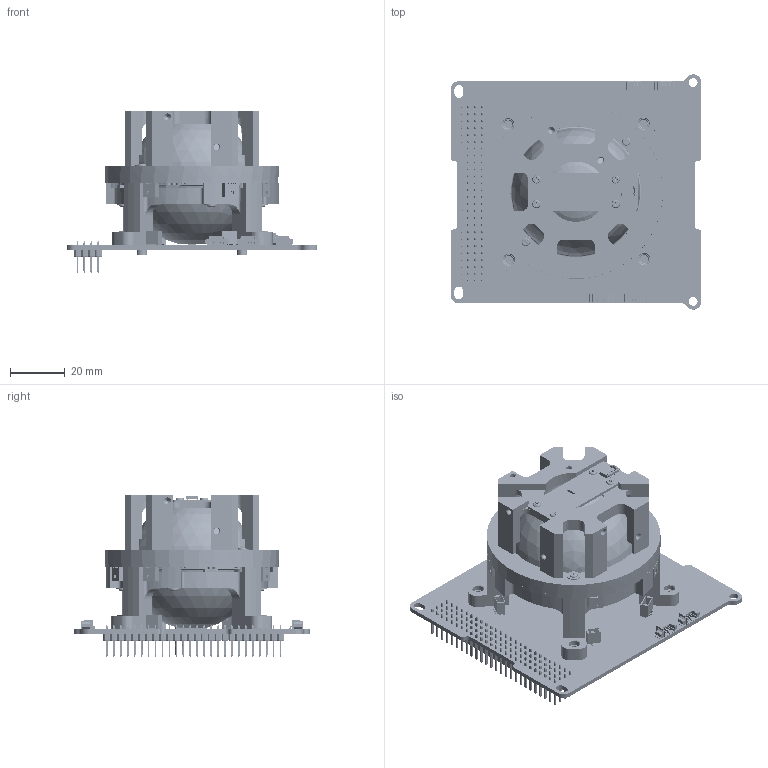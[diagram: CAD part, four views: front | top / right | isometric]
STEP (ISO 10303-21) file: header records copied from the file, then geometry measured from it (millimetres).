
FILE_DESCRIPTION(/* description */ (''),/* implementation_level */ '2;1');
FILE_NAME(/* name */ 'G:\Shared drives\業務部\銷售\給客戶的資料\CAD Models\Full Assembly of CMG-10m V9.6 for Customers.stp',/* time_stamp */ '2023-03-01T14:41:12+08:00',/* author */ ('thoma'),/* organization */ (''),/* preprocessor_version */ 'ST-DEVELOPER v19',/* originating_system */ 'Autodesk Inventor 2023',/* authorisation */ '');
FILE_SCHEMA (('AUTOMOTIVE_DESIGN { 1 0 10303 214 3 1 1 }'));
Products named in the file (1): Full Assembly of CMG-10m V9.6 for Customers
Bounding box: 91.72 x 86.01 x 58.94 mm (x, y, z)
Volume: 58768.9 mm3; surface area: 85232.3 mm2
Topology: 97 solids, 97 shells, 14836 faces, 36852 edges, 22013 vertices
Faces by surface type: plane 8043, cylinder 4400, sphere 1685, bspline 273, cone 257, torus 178
Full cylindrical faces by diameter (mm): 0.75 x12, 0.914 x104, 1.5 x46, 1.6 x18, 2 x38, 2.1 x10, 2.2 x6, 3 x4, 3.2 x2, 3.8 x4, 4 x4, 5 x7, 6 x1, 7 x2, 9 x2, 10 x4, 12 x2, 13 x2, 15 x2, 16 x6, 18 x2, 19 x2, 22 x1, 48 x1, 63.6 x1
Entity records: 469915 total; most frequent: CARTESIAN_POINT 104338, DIRECTION 75021, ORIENTED_EDGE 73582, EDGE_CURVE 36791, LINE 25833, VECTOR 25833, AXIS2_PLACEMENT_3D 24594, VERTEX_POINT 22013
